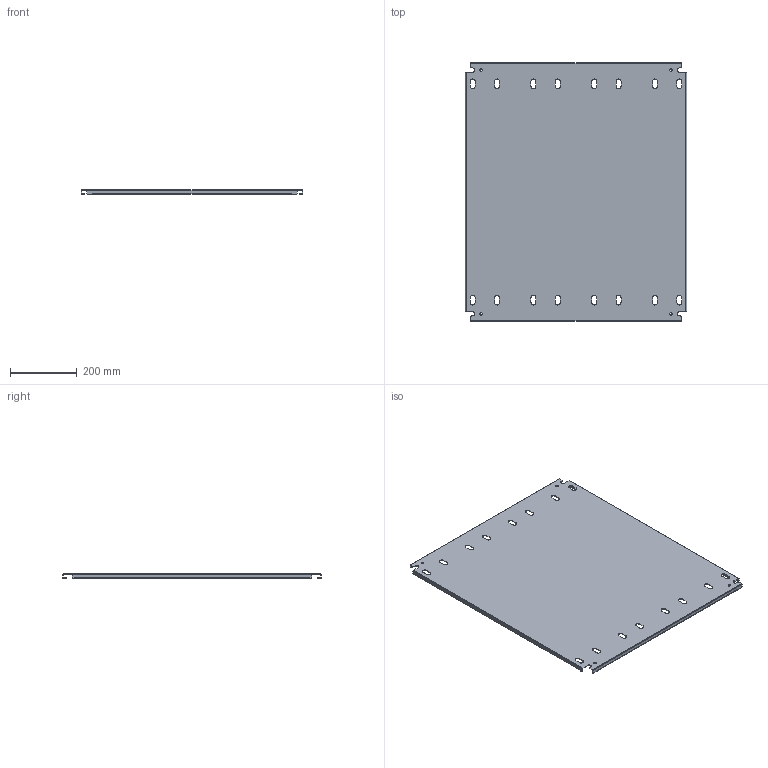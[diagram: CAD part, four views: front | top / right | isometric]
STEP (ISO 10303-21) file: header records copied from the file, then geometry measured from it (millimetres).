
FILE_DESCRIPTION(/* description */ ('1412BTCU 26.126" x 28" Right Inner Panel'),/* implementation_level */ '2;1');
FILE_NAME(/* name */ 'C:\Vault_Workspace\Inventor_Dwg\BoxCad\Result\1412BTCU071604\e-mail\3D\1412BTCU071604IP2.stp',/* time_stamp */ '2022-09-19T17:59:20-04:00',/* author */ ('BoxCad'),/* organization */ (''),/* preprocessor_version */ 'ST-DEVELOPER v18.1',/* originating_system */ 'Autodesk Inventor 2020',/* authorisation */ '');
FILE_SCHEMA (('AUTOMOTIVE_DESIGN { 1 0 10303 214 3 1 1 }'));
Length unit declared in the file: inch
Products named in the file (2): 1412BTCU071604IP2; 1412BTCU071604IP2-P
Assembly tree (1 placements, depth 2):
  1412BTCU071604IP2
    1412BTCU071604IP2-P
Bounding box: 663.6 x 774.7 x 13 mm (x, y, z)
Volume: 958678 mm3; surface area: 1117738.8 mm2
Topology: 1 solids, 1 shells, 174 faces, 516 edges, 344 vertices
Faces by surface type: plane 98, cylinder 76
Full cylindrical faces by diameter (mm): 7.366 x4
Entity records: 6001 total; most frequent: CARTESIAN_POINT 1037, ORIENTED_EDGE 1032, DIRECTION 1022, EDGE_CURVE 516, LINE 364, VECTOR 364, VERTEX_POINT 344, AXIS2_PLACEMENT_3D 329
